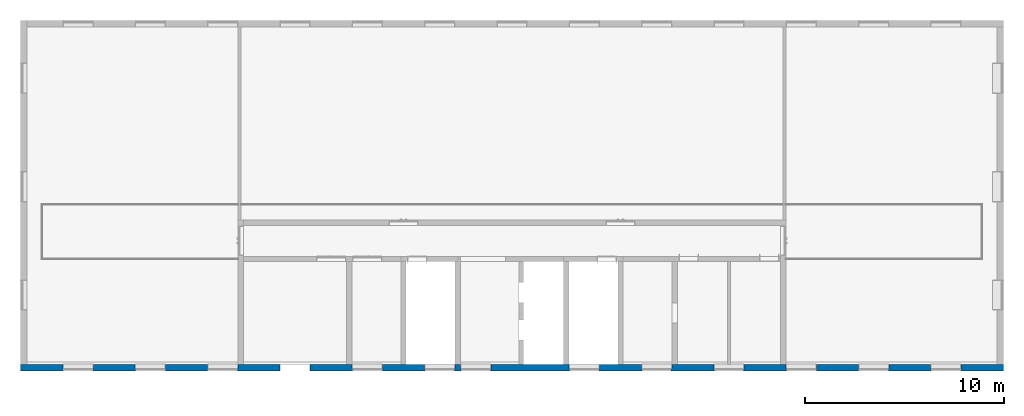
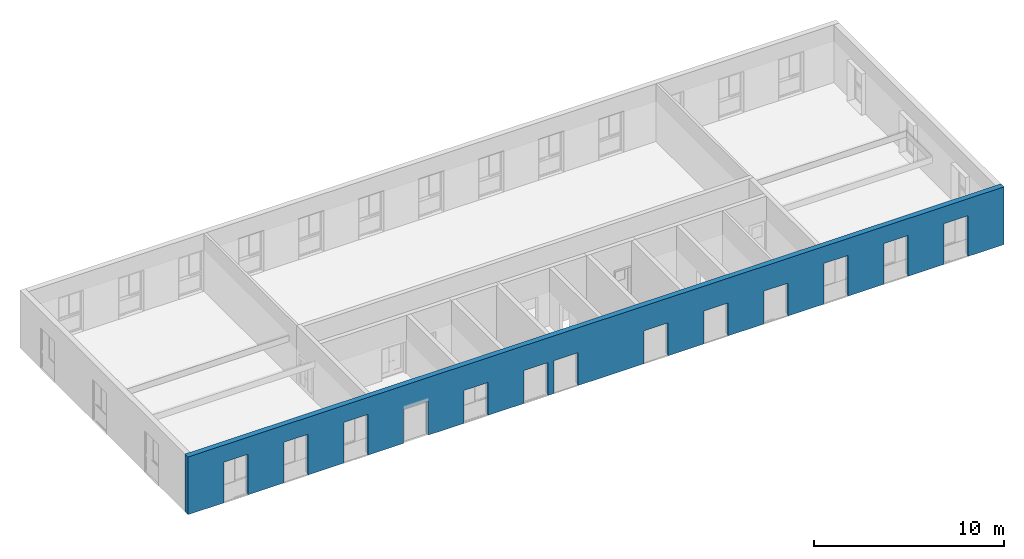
# One storey, part 6 of 15: 1 wall, 13 openings.
"""IFC4X3 building model written with IfcOpenShell, lengths in millimetres."""

from ifc_helpers import new_model, entity, si_unit, converted_unit, derived_unit, direction, frame, frame_2d, origin, place, context, subcontext, project, spatial, rectangle, extrude, faceted_brep, material, layer, layer_set, type_object, element, save


model = new_model("IFC4X3")

# Units and contexts
model_context = context("Model", 3, precision=0.01, world=origin(), true_north=direction((6.12303176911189e-17, 1.0)))
body_context = subcontext(model_context, "Body", "Model", "MODEL_VIEW")
ifc_project = project(units=[si_unit("LENGTHUNIT", "METRE", prefix="MILLI"), si_unit("AREAUNIT", "SQUARE_METRE"), si_unit("VOLUMEUNIT", "CUBIC_METRE"), converted_unit("PLANEANGLEUNIT", "DEGREE", entity("IfcPlaneAngleMeasure", 0.0174532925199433), si_unit("PLANEANGLEUNIT", "RADIAN"), dimensions=[0, 0, 0, 0, 0, 0, 0]), si_unit("MASSUNIT", "GRAM", prefix="KILO"), derived_unit("MASSDENSITYUNIT", [(si_unit("MASSUNIT", "GRAM", prefix="KILO"), 1), (si_unit("LENGTHUNIT", "METRE"), -3)]), derived_unit("IONCONCENTRATIONUNIT", [(si_unit("MASSUNIT", "GRAM", prefix="KILO"), 1), (si_unit("LENGTHUNIT", "METRE"), -3)]), derived_unit("MOMENTOFINERTIAUNIT", [(si_unit("LENGTHUNIT", "METRE"), 4)]), si_unit("TIMEUNIT", "SECOND"), si_unit("FREQUENCYUNIT", "HERTZ"), si_unit("THERMODYNAMICTEMPERATUREUNIT", "DEGREE_CELSIUS"), derived_unit("THERMALTRANSMITTANCEUNIT", [(si_unit("MASSUNIT", "GRAM", prefix="KILO"), 1), (si_unit("THERMODYNAMICTEMPERATUREUNIT", "KELVIN"), -1), (si_unit("TIMEUNIT", "SECOND"), -3)]), derived_unit("THERMALCONDUCTANCEUNIT", [(si_unit("MASSUNIT", "GRAM", prefix="KILO"), 1), (si_unit("THERMODYNAMICTEMPERATUREUNIT", "KELVIN"), -1), (si_unit("TIMEUNIT", "SECOND"), -3), (si_unit("LENGTHUNIT", "METRE"), 1)]), derived_unit("VOLUMETRICFLOWRATEUNIT", [(si_unit("LENGTHUNIT", "METRE", prefix="DECI"), 3), (si_unit("TIMEUNIT", "SECOND"), -1)]), derived_unit("MASSFLOWRATEUNIT", [(si_unit("MASSUNIT", "GRAM", prefix="KILO"), 1), (si_unit("TIMEUNIT", "SECOND"), -1)]), derived_unit("ROTATIONALFREQUENCYUNIT", [(si_unit("TIMEUNIT", "SECOND"), -1)]), si_unit("ELECTRICCURRENTUNIT", "AMPERE"), si_unit("ELECTRICVOLTAGEUNIT", "VOLT"), si_unit("POWERUNIT", "WATT"), si_unit("FORCEUNIT", "NEWTON", prefix="KILO"), si_unit("ILLUMINANCEUNIT", "LUX"), si_unit("LUMINOUSFLUXUNIT", "LUMEN"), si_unit("LUMINOUSINTENSITYUNIT", "CANDELA"), si_unit("ENERGYUNIT", "JOULE"), derived_unit("USERDEFINED", [(si_unit("MASSUNIT", "GRAM", prefix="KILO"), -1), (si_unit("LENGTHUNIT", "METRE"), -2), (si_unit("TIMEUNIT", "SECOND"), 3), (si_unit("LUMINOUSFLUXUNIT", "LUMEN"), 1)]), derived_unit("USERDEFINED", [(si_unit("MASSUNIT", "GRAM", prefix="KILO"), 1), (si_unit("TIMEUNIT", "SECOND"), -3), (si_unit("LENGTHUNIT", "METRE"), 3), (si_unit("ELECTRICCURRENTUNIT", "AMPERE"), -2)]), derived_unit("SOUNDPOWERUNIT", [(si_unit("MASSUNIT", "GRAM", prefix="KILO"), 1), (si_unit("TIMEUNIT", "SECOND"), -3), (si_unit("LENGTHUNIT", "METRE"), 2)]), derived_unit("SOUNDPRESSUREUNIT", [(si_unit("MASSUNIT", "GRAM", prefix="KILO"), 1), (si_unit("LENGTHUNIT", "METRE"), -1), (si_unit("TIMEUNIT", "SECOND"), -2)]), derived_unit("LINEARVELOCITYUNIT", [(si_unit("LENGTHUNIT", "METRE"), 1), (si_unit("TIMEUNIT", "SECOND"), -1)]), si_unit("PRESSUREUNIT", "PASCAL"), derived_unit("USERDEFINED", [(si_unit("MASSUNIT", "GRAM", prefix="KILO"), 1), (si_unit("LENGTHUNIT", "METRE"), -2), (si_unit("TIMEUNIT", "SECOND"), -2)]), derived_unit("LINEARFORCEUNIT", [(si_unit("MASSUNIT", "GRAM", prefix="KILO"), 1), (si_unit("TIMEUNIT", "SECOND"), -2)]), derived_unit("PLANARFORCEUNIT", [(si_unit("MASSUNIT", "GRAM", prefix="KILO"), 1), (si_unit("LENGTHUNIT", "METRE"), -1), (si_unit("TIMEUNIT", "SECOND"), -2)]), derived_unit("SPECIFICHEATCAPACITYUNIT", [(si_unit("THERMODYNAMICTEMPERATUREUNIT", "KELVIN"), -1), (si_unit("LENGTHUNIT", "METRE"), 2), (si_unit("TIMEUNIT", "SECOND"), -2)]), derived_unit("HEATFLUXDENSITYUNIT", [(si_unit("MASSUNIT", "GRAM", prefix="KILO"), 1), (si_unit("TIMEUNIT", "SECOND"), -3)]), derived_unit("HEATINGVALUEUNIT", [(si_unit("LENGTHUNIT", "METRE"), 2), (si_unit("TIMEUNIT", "SECOND"), -2)]), derived_unit("VAPORPERMEABILITYUNIT", [(si_unit("LENGTHUNIT", "METRE"), -1), (si_unit("TIMEUNIT", "SECOND"), 1)]), derived_unit("DYNAMICVISCOSITYUNIT", [(si_unit("MASSUNIT", "GRAM", prefix="KILO"), 1), (si_unit("TIMEUNIT", "SECOND"), -1), (si_unit("LENGTHUNIT", "METRE"), -1)]), derived_unit("THERMALEXPANSIONCOEFFICIENTUNIT", [(si_unit("THERMODYNAMICTEMPERATUREUNIT", "KELVIN"), -1)]), derived_unit("MODULUSOFELASTICITYUNIT", [(si_unit("MASSUNIT", "GRAM", prefix="KILO"), 1), (si_unit("LENGTHUNIT", "METRE"), -1), (si_unit("TIMEUNIT", "SECOND"), -2)]), derived_unit("ISOTHERMALMOISTURECAPACITYUNIT", [(si_unit("MASSUNIT", "GRAM", prefix="KILO"), -1), (si_unit("LENGTHUNIT", "METRE"), 3)]), derived_unit("MOISTUREDIFFUSIVITYUNIT", [(si_unit("TIMEUNIT", "SECOND"), -1), (si_unit("LENGTHUNIT", "METRE"), 2)]), derived_unit("AREADENSITYUNIT", [(si_unit("MASSUNIT", "GRAM", prefix="KILO"), 1), (si_unit("LENGTHUNIT", "METRE"), 2)]), derived_unit("MASSPERLENGTHUNIT", [(si_unit("MASSUNIT", "GRAM", prefix="KILO"), 1), (si_unit("LENGTHUNIT", "METRE"), -1)]), derived_unit("THERMALRESISTANCEUNIT", [(si_unit("MASSUNIT", "GRAM", prefix="KILO"), -1), (si_unit("TIMEUNIT", "SECOND"), 3), (si_unit("THERMODYNAMICTEMPERATUREUNIT", "KELVIN"), 1)]), derived_unit("ACCELERATIONUNIT", [(si_unit("LENGTHUNIT", "METRE"), 1), (si_unit("TIMEUNIT", "SECOND"), -2)]), derived_unit("ANGULARVELOCITYUNIT", [(si_unit("TIMEUNIT", "SECOND"), -1), (si_unit("PLANEANGLEUNIT", "RADIAN"), 1)]), derived_unit("LINEARSTIFFNESSUNIT", [(si_unit("MASSUNIT", "GRAM", prefix="KILO"), 1), (si_unit("TIMEUNIT", "SECOND"), -2)]), derived_unit("WARPINGCONSTANTUNIT", [(si_unit("LENGTHUNIT", "METRE"), 6)]), derived_unit("LINEARMOMENTUNIT", [(si_unit("MASSUNIT", "GRAM", prefix="KILO"), 1), (si_unit("LENGTHUNIT", "METRE"), 1), (si_unit("TIMEUNIT", "SECOND"), -2)]), derived_unit("TORQUEUNIT", [(si_unit("MASSUNIT", "GRAM", prefix="KILO"), 1), (si_unit("LENGTHUNIT", "METRE"), 2), (si_unit("TIMEUNIT", "SECOND"), -2)])], contexts=[model_context])

# Site, building, storey
site_placement = place(None, origin())
site = spatial("IfcSite", under=ifc_project, at=site_placement, Name="Default", CompositionType="ELEMENT")
building_placement = place(site_placement, origin())
building = spatial("IfcBuilding", under=site, at=building_placement, Name="事務所ビル", CompositionType="ELEMENT")
storey_placement = place(building_placement, frame((0.0, 0.0, 4300.0)))
storey = spatial("IfcBuildingStorey", under=building, at=storey_placement, Name="2FL", CompositionType="ELEMENT", Elevation=4300.0)

# Wall, openings
ifc_material_1 = material(Name="<Unnamed>")
ifc_layer_1 = layer(ifc_material_1, 46.0, Name="Layer")
ifc_material_2 = material(Name="合板", Category="一般")
ifc_layer_2 = layer(ifc_material_2, 12.0, Name="合板", Category="一般")
ifc_material_3 = material(Name="天然木材", Category="一般")
ifc_layer_3 = layer(ifc_material_3, 240.0, Name="天然木材", Category="一般")
ifc_layer_4 = layer(ifc_material_2, 12.0, Name="合板", Category="一般")
ifc_material_4 = material(Name="せっこうボード", Category="一般")
ifc_layer_5 = layer(ifc_material_4, 15.0, Name="せっこうボード", Category="一般")
ifc_layer_set = layer_set([ifc_layer_1, ifc_layer_2, ifc_layer_3, ifc_layer_4, ifc_layer_5], Name="標準壁:外装材46_構造用合板12_木240_構造用合板12_GB-R15")
wall_type = type_object("IfcWallType", Name="標準壁:外装材46_構造用合板12_木240_構", PredefinedType="STANDARD", material=ifc_layer_set)
wall_placement = place(storey_placement, frame((-178.0, -15.5000000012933, 0.0)))
wall = element("IfcWall", 1, at=wall_placement, inside=storey, type_object=wall_type, material=ifc_layer_set, Name="標準壁:外装材46_構造用合板12_木240_構造用合板12_GB-R15", ObjectType="標準壁:外装材46_構造用合板12_木240_構造用合板12_GB-R15", PredefinedType="NOTDEFINED", context=body_context, shape_type="SweptSolid", body=[
    extrude(rectangle(XDim=49496.0, YDim=325.0, at=frame_2d((24748.0, 0.0), x_axis=(1.0, 0.0))), origin(), (0.0, 0.0, 1.0), 3700.0),
])
opening_1_placement = place(wall_placement, frame((13063.0, -162.500000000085, 0.0)))
element("IfcOpeningElement", 2, at=opening_1_placement, cuts=wall, Name="シャッター - 上下開閉式:シャッター - 上下開閉式 H2200:1", PredefinedType="OPENING", context=body_context, shape_type="SweptSolid", body=[
    extrude(rectangle(XDim=2200.00000000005, YDim=1530.0, at=frame_2d((1100.00000000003, 765.000000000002), x_axis=(-1.0, 0.0))), frame((0.0, 0.0, 0.0), z_axis=(0.0, 1.0, 0.0), x_axis=(0.0, 0.0, 1.0)), (0.0, 0.0, 1.0), 325.0),
])
opening_2_placement = place(wall_placement, frame((178.0, 15.5000000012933, 0.0)))
element("IfcOpeningElement", 3, at=opening_2_placement, cuts=wall, Name="標準壁:外装材46_構造用合板12_木240_構造用合板12_GB-R15", PredefinedType="OPENING", context=body_context, shape_type="Brep", body=[
    faceted_brep([(45655.0, -48.0, -105.0), (45655.0, -48.0, -35.0), (47165.0, -48.0, -35.0), (47165.0, -48.0, -105.0), (45675.0, -118.0, 2610.0), (45675.0, -118.0, -10.0), (45675.0, -178.0, -10.0), (45675.0, -178.0, 2610.0), (47145.0, -118.0, -10.0), (47145.0, -118.0, 2610.0), (47145.0, -178.0, 2610.0), (47145.0, -178.0, -10.0), (45645.0, 157.0, -35.0), (45645.0, -48.0, -35.0), (45645.0, -48.0, 2635.0), (45645.0, 157.0, 2635.0), (47175.0, 157.0, -35.0), (47175.0, 157.0, 2635.0), (47175.0, -48.0, 2635.0), (47175.0, -48.0, -35.0), (45655.0, -48.0, 2630.0), (47165.0, -48.0, 2630.0), (45655.0, -118.0, -115.769230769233), (45655.0, -118.0, 2630.0), (47165.0, -118.0, 2630.0), (47165.0, -118.0, -115.769230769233)], [[[0, 1, 2, 3]], [[4, 5, 6, 7]], [[8, 9, 10, 11]], [[5, 8, 11, 6]], [[7, 10, 9, 4]], [[12, 13, 14, 15]], [[16, 17, 18, 19]], [[12, 16, 19, 2, 1, 13]], [[13, 1, 20, 21, 2, 19, 18, 14]], [[14, 18, 17, 15]], [[15, 17, 16, 12]], [[20, 1, 0, 22, 23]], [[3, 2, 21, 24, 25]], [[0, 3, 25, 22]], [[22, 25, 24, 23], [4, 9, 8, 5]], [[23, 24, 21, 20]], [[6, 11, 10, 7]]]),
])
opening_3_placement = place(wall_placement, frame((178.0, 15.5000000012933, 0.0)))
element("IfcOpeningElement", 4, at=opening_3_placement, cuts=wall, Name="標準壁:外装材46_構造用合板12_木240_構造用合板12_GB-R15", PredefinedType="OPENING", context=body_context, shape_type="Brep", body=[
    faceted_brep([(42015.0, -48.0, -105.0), (42015.0, -48.0, -35.0), (43525.0, -48.0, -35.0), (43525.0, -48.0, -105.0), (42035.0, -118.0, 2610.0), (42035.0, -118.0, -10.0), (42035.0, -178.0, -10.0), (42035.0, -178.0, 2610.0), (43505.0, -118.0, -10.0), (43505.0, -118.0, 2610.0), (43505.0, -178.0, 2610.0), (43505.0, -178.0, -10.0), (42005.0, 157.0, -35.0), (42005.0, -48.0, -35.0), (42005.0, -48.0, 2635.0), (42005.0, 157.0, 2635.0), (43535.0, 157.0, -35.0), (43535.0, 157.0, 2635.0), (43535.0, -48.0, 2635.0), (43535.0, -48.0, -35.0), (42015.0, -48.0, 2630.0), (43525.0, -48.0, 2630.0), (42015.0, -118.0, -115.769230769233), (42015.0, -118.0, 2630.0), (43525.0, -118.0, 2630.0), (43525.0, -118.0, -115.769230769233)], [[[0, 1, 2, 3]], [[4, 5, 6, 7]], [[8, 9, 10, 11]], [[5, 8, 11, 6]], [[7, 10, 9, 4]], [[12, 13, 14, 15]], [[16, 17, 18, 19]], [[12, 16, 19, 2, 1, 13]], [[13, 1, 20, 21, 2, 19, 18, 14]], [[14, 18, 17, 15]], [[15, 17, 16, 12]], [[20, 1, 0, 22, 23]], [[3, 2, 21, 24, 25]], [[0, 3, 25, 22]], [[22, 25, 24, 23], [4, 9, 8, 5]], [[23, 24, 21, 20]], [[6, 11, 10, 7]]]),
])
opening_4_placement = place(wall_placement, frame((178.0, 15.5000000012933, 0.0)))
element("IfcOpeningElement", 5, at=opening_4_placement, cuts=wall, Name="標準壁:外装材46_構造用合板12_木240_構造用合板12_GB-R15", PredefinedType="OPENING", context=body_context, shape_type="Brep", body=[
    faceted_brep([(38375.0, -48.0, -105.0), (38375.0, -48.0, -35.0), (39885.0, -48.0, -35.0), (39885.0, -48.0, -105.0), (38395.0, -118.0, 2610.0), (38395.0, -118.0, -10.0), (38395.0, -178.0, -10.0), (38395.0, -178.0, 2610.0), (39865.0, -118.0, -10.0), (39865.0, -118.0, 2610.0), (39865.0, -178.0, 2610.0), (39865.0, -178.0, -10.0), (38365.0, 157.0, -35.0), (38365.0, -48.0, -35.0), (38365.0, -48.0, 2635.0), (38365.0, 157.0, 2635.0), (39895.0, 157.0, -35.0), (39895.0, 157.0, 2635.0), (39895.0, -48.0, 2635.0), (39895.0, -48.0, -35.0), (38375.0, -48.0, 2630.0), (39885.0, -48.0, 2630.0), (38375.0, -118.0, -115.769230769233), (38375.0, -118.0, 2630.0), (39885.0, -118.0, 2630.0), (39885.0, -118.0, -115.769230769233)], [[[0, 1, 2, 3]], [[4, 5, 6, 7]], [[8, 9, 10, 11]], [[5, 8, 11, 6]], [[7, 10, 9, 4]], [[12, 13, 14, 15]], [[16, 17, 18, 19]], [[12, 16, 19, 2, 1, 13]], [[13, 1, 20, 21, 2, 19, 18, 14]], [[14, 18, 17, 15]], [[15, 17, 16, 12]], [[20, 1, 0, 22, 23]], [[3, 2, 21, 24, 25]], [[0, 3, 25, 22]], [[22, 25, 24, 23], [4, 9, 8, 5]], [[23, 24, 21, 20]], [[6, 11, 10, 7]]]),
])
opening_5_placement = place(wall_placement, frame((178.0, 15.5000000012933, 0.0)))
element("IfcOpeningElement", 6, at=opening_5_placement, cuts=wall, Name="標準壁:外装材46_構造用合板12_木240_構造用合板12_GB-R15", PredefinedType="OPENING", context=body_context, shape_type="Brep", body=[
    faceted_brep([(9255.0, -48.0, -105.0), (9255.0, -48.0, -35.0), (10765.0, -48.0, -35.0), (10765.0, -48.0, -105.0), (9275.0, -118.0, 2610.0), (9275.0, -118.0, -10.0), (9275.0, -178.0, -10.0), (9275.0, -178.0, 2610.0), (10745.0, -118.0, -10.0), (10745.0, -118.0, 2610.0), (10745.0, -178.0, 2610.0), (10745.0, -178.0, -10.0), (9245.0, 157.0, -35.0), (9245.0, -48.0, -35.0), (9245.0, -48.0, 2635.0), (9245.0, 157.0, 2635.0), (10775.0, 157.0, -35.0), (10775.0, 157.0, 2635.0), (10775.0, -48.0, 2635.0), (10775.0, -48.0, -35.0), (9255.0, -48.0, 2630.0), (10765.0, -48.0, 2630.0), (9255.0, -118.0, -115.769230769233), (9255.0, -118.0, 2630.0), (10765.0, -118.0, 2630.0), (10765.0, -118.0, -115.769230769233)], [[[0, 1, 2, 3]], [[4, 5, 6, 7]], [[8, 9, 10, 11]], [[5, 8, 11, 6]], [[7, 10, 9, 4]], [[12, 13, 14, 15]], [[16, 17, 18, 19]], [[12, 16, 19, 2, 1, 13]], [[13, 1, 20, 21, 2, 19, 18, 14]], [[14, 18, 17, 15]], [[15, 17, 16, 12]], [[20, 1, 0, 22, 23]], [[3, 2, 21, 24, 25]], [[0, 3, 25, 22]], [[22, 25, 24, 23], [4, 9, 8, 5]], [[23, 24, 21, 20]], [[6, 11, 10, 7]]]),
])
opening_6_placement = place(wall_placement, frame((178.0, 15.5000000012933, 0.0)))
element("IfcOpeningElement", 7, at=opening_6_placement, cuts=wall, Name="標準壁:外装材46_構造用合板12_木240_構造用合板12_GB-R15", PredefinedType="OPENING", context=body_context, shape_type="Brep", body=[
    faceted_brep([(5615.0, -48.0, -105.0), (5615.0, -48.0, -35.0), (7125.0, -48.0, -35.0), (7125.0, -48.0, -105.0), (5635.0, -118.0, 2610.0), (5635.0, -118.0, -10.0), (5635.0, -178.0, -10.0), (5635.0, -178.0, 2610.0), (7105.0, -118.0, -10.0), (7105.0, -118.0, 2610.0), (7105.0, -178.0, 2610.0), (7105.0, -178.0, -10.0), (5605.0, 157.0, -35.0), (5605.0, -48.0, -35.0), (5605.0, -48.0, 2635.0), (5605.0, 157.0, 2635.0), (7135.0, 157.0, -35.0), (7135.0, 157.0, 2635.0), (7135.0, -48.0, 2635.0), (7135.0, -48.0, -35.0), (5615.0, -48.0, 2630.0), (7125.0, -48.0, 2630.0), (5615.0, -118.0, -115.769230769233), (5615.0, -118.0, 2630.0), (7125.0, -118.0, 2630.0), (7125.0, -118.0, -115.769230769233)], [[[0, 1, 2, 3]], [[4, 5, 6, 7]], [[8, 9, 10, 11]], [[5, 8, 11, 6]], [[7, 10, 9, 4]], [[12, 13, 14, 15]], [[16, 17, 18, 19]], [[12, 16, 19, 2, 1, 13]], [[13, 1, 20, 21, 2, 19, 18, 14]], [[14, 18, 17, 15]], [[15, 17, 16, 12]], [[20, 1, 0, 22, 23]], [[3, 2, 21, 24, 25]], [[0, 3, 25, 22]], [[22, 25, 24, 23], [4, 9, 8, 5]], [[23, 24, 21, 20]], [[6, 11, 10, 7]]]),
])
opening_7_placement = place(wall_placement, frame((178.0, 15.5000000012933, 0.0)))
element("IfcOpeningElement", 8, at=opening_7_placement, cuts=wall, Name="標準壁:外装材46_構造用合板12_木240_構造用合板12_GB-R15", PredefinedType="OPENING", context=body_context, shape_type="Brep", body=[
    faceted_brep([(1975.0, -48.0, -105.0), (1975.0, -48.0, -35.0), (3485.0, -48.0, -35.0), (3485.0, -48.0, -105.0), (1995.0, -118.0, 2610.0), (1995.0, -118.0, -10.0), (1995.0, -178.0, -10.0), (1995.0, -178.0, 2610.0), (3465.0, -118.0, -10.0), (3465.0, -118.0, 2610.0), (3465.0, -178.0, 2610.0), (3465.0, -178.0, -10.0), (1965.0, 157.0, -35.0), (1965.0, -48.0, -35.0), (1965.0, -48.0, 2635.0), (1965.0, 157.0, 2635.0), (3495.0, 157.0, -35.0), (3495.0, 157.0, 2635.0), (3495.0, -48.0, 2635.0), (3495.0, -48.0, -35.0), (1975.0, -48.0, 2630.0), (3485.0, -48.0, 2630.0), (1975.0, -118.0, -115.769230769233), (1975.0, -118.0, 2630.0), (3485.0, -118.0, 2630.0), (3485.0, -118.0, -115.769230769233)], [[[0, 1, 2, 3]], [[4, 5, 6, 7]], [[8, 9, 10, 11]], [[5, 8, 11, 6]], [[7, 10, 9, 4]], [[12, 13, 14, 15]], [[16, 17, 18, 19]], [[12, 16, 19, 2, 1, 13]], [[13, 1, 20, 21, 2, 19, 18, 14]], [[14, 18, 17, 15]], [[15, 17, 16, 12]], [[20, 1, 0, 22, 23]], [[3, 2, 21, 24, 25]], [[0, 3, 25, 22]], [[22, 25, 24, 23], [4, 9, 8, 5]], [[23, 24, 21, 20]], [[6, 11, 10, 7]]]),
])
opening_8_placement = place(wall_placement, frame((178.0, 15.5000000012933, 0.0)))
element("IfcOpeningElement", 9, at=opening_8_placement, cuts=wall, Name="標準壁:外装材46_構造用合板12_木240_構造用合板12_GB-R15", PredefinedType="OPENING", context=body_context, shape_type="Brep", body=[
    faceted_brep([(23515.0, -48.0, -35.0), (23515.0, -48.0, 2135.0), (21985.0, -48.0, 2135.0), (21985.0, -48.0, -35.0), (21995.0, -48.0, -35.0), (21995.0, -48.0, 2130.0), (23505.0, -48.0, 2130.0), (23505.0, -48.0, -35.0), (23505.0, -118.0, -115.769230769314), (23505.0, -118.0, 2130.0), (21995.0, -118.0, 2130.0), (21995.0, -118.0, -115.769230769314), (22015.0, -118.0, -115.769230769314), (22015.0, -118.0, 2110.0), (23485.0, -118.0, 2110.0), (23485.0, -118.0, -115.769230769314), (23515.0, 157.0, -35.0), (23515.0, 157.0, 2135.0), (21985.0, 157.0, -35.0), (21985.0, 157.0, 2135.0), (23505.0, -48.0, -105.0), (21995.0, -48.0, -105.0), (23485.0, -178.0, -125.0), (22015.0, -178.0, -125.0), (23485.0, -178.0, 2110.0), (22015.0, -178.0, 2110.0)], [[[0, 1, 2, 3, 4, 5, 6, 7]], [[8, 9, 10, 11, 12, 13, 14, 15]], [[16, 17, 1, 0]], [[18, 3, 2, 19]], [[16, 0, 7, 4, 3, 18]], [[1, 17, 19, 2]], [[17, 16, 18, 19]], [[6, 9, 8, 20, 7]], [[21, 11, 10, 5, 4]], [[20, 8, 15, 22, 23, 12, 11, 21]], [[9, 6, 5, 10]], [[20, 21, 4, 7]], [[14, 24, 22, 15]], [[12, 23, 25, 13]], [[22, 24, 25, 23]], [[24, 14, 13, 25]]]),
])
opening_9_placement = place(wall_placement, frame((178.0, 15.5000000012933, 0.0)))
element("IfcOpeningElement", 10, at=opening_9_placement, cuts=wall, Name="標準壁:外装材46_構造用合板12_木240_構造用合板12_GB-R15", PredefinedType="OPENING", context=body_context, shape_type="Brep", body=[
    faceted_brep([(31085.0, -48.0, -35.0), (31095.0, -48.0, -35.0), (31095.0, -48.0, 2130.0), (32605.0, -48.0, 2130.0), (32605.0, -48.0, -35.0), (32615.0, -48.0, -35.0), (32615.0, -48.0, 2135.0), (31085.0, -48.0, 2135.0), (31095.0, -118.0, -115.769230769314), (31115.0, -118.0, -115.769230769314), (31115.0, -118.0, 2110.0), (32585.0, -118.0, 2110.0), (32585.0, -118.0, -115.769230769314), (32605.0, -118.0, -115.769230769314), (32605.0, -118.0, 2130.0), (31095.0, -118.0, 2130.0), (31085.0, 157.0, -35.0), (31085.0, 157.0, 2135.0), (32615.0, 157.0, -35.0), (32615.0, 157.0, 2135.0), (31095.0, -48.0, -105.0), (32605.0, -48.0, -105.0), (32585.0, -178.0, -125.0), (31115.0, -178.0, -125.0), (31115.0, -178.0, 2110.0), (32585.0, -178.0, 2110.0)], [[[0, 1, 2, 3, 4, 5, 6, 7]], [[8, 9, 10, 11, 12, 13, 14, 15]], [[16, 0, 7, 17]], [[18, 19, 6, 5]], [[16, 18, 5, 4, 1, 0]], [[7, 6, 19, 17]], [[17, 19, 18, 16]], [[2, 1, 20, 8, 15]], [[21, 4, 3, 14, 13]], [[20, 21, 13, 12, 22, 23, 9, 8]], [[15, 14, 3, 2]], [[20, 1, 4, 21]], [[10, 9, 23, 24]], [[12, 11, 25, 22]], [[23, 22, 25, 24]], [[24, 25, 11, 10]]]),
])
opening_10_placement = place(wall_placement, frame((178.0, 15.5000000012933, 0.0)))
element("IfcOpeningElement", 11, at=opening_10_placement, cuts=wall, Name="標準壁:外装材46_構造用合板12_木240_構造用合板12_GB-R15", PredefinedType="OPENING", context=body_context, shape_type="Brep", body=[
    faceted_brep([(27445.0, -48.0, -35.0), (27455.0, -48.0, -35.0), (27455.0, -48.0, 2130.0), (28965.0, -48.0, 2130.0), (28965.0, -48.0, -35.0), (28975.0, -48.0, -35.0), (28975.0, -48.0, 2135.0), (27445.0, -48.0, 2135.0), (27455.0, -118.0, -115.769230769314), (27475.0, -118.0, -115.769230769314), (27475.0, -118.0, 2110.0), (28945.0, -118.0, 2110.0), (28945.0, -118.0, -115.769230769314), (28965.0, -118.0, -115.769230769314), (28965.0, -118.0, 2130.0), (27455.0, -118.0, 2130.0), (27445.0, 157.0, -35.0), (27445.0, 157.0, 2135.0), (28975.0, 157.0, -35.0), (28975.0, 157.0, 2135.0), (27455.0, -48.0, -105.0), (28965.0, -48.0, -105.0), (28945.0, -178.0, -125.0), (27475.0, -178.0, -125.0), (27475.0, -178.0, 2110.0), (28945.0, -178.0, 2110.0)], [[[0, 1, 2, 3, 4, 5, 6, 7]], [[8, 9, 10, 11, 12, 13, 14, 15]], [[16, 0, 7, 17]], [[18, 19, 6, 5]], [[16, 18, 5, 4, 1, 0]], [[7, 6, 19, 17]], [[17, 19, 18, 16]], [[2, 1, 20, 8, 15]], [[21, 4, 3, 14, 13]], [[20, 21, 13, 12, 22, 23, 9, 8]], [[15, 14, 3, 2]], [[20, 1, 4, 21]], [[10, 9, 23, 24]], [[12, 11, 25, 22]], [[23, 22, 25, 24]], [[24, 25, 11, 10]]]),
])
opening_11_placement = place(wall_placement, frame((178.0, 15.5000000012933, 0.0)))
element("IfcOpeningElement", 12, at=opening_11_placement, cuts=wall, Name="標準壁:外装材46_構造用合板12_木240_構造用合板12_GB-R15", PredefinedType="OPENING", context=body_context, shape_type="Brep", body=[
    faceted_brep([(20165.0, -48.0, -35.0), (20175.0, -48.0, -35.0), (20175.0, -48.0, 2130.0), (21685.0, -48.0, 2130.0), (21685.0, -48.0, -35.0), (21695.0, -48.0, -35.0), (21695.0, -48.0, 2135.0), (20165.0, -48.0, 2135.0), (20175.0, -118.0, -115.769230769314), (20195.0, -118.0, -115.769230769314), (20195.0, -118.0, 2110.0), (21665.0, -118.0, 2110.0), (21665.0, -118.0, -115.769230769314), (21685.0, -118.0, -115.769230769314), (21685.0, -118.0, 2130.0), (20175.0, -118.0, 2130.0), (20165.0, 157.0, -35.0), (20165.0, 157.0, 2135.0), (21695.0, 157.0, -35.0), (21695.0, 157.0, 2135.0), (20175.0, -48.0, -105.0), (21685.0, -48.0, -105.0), (21665.0, -178.0, -125.0), (20195.0, -178.0, -125.0), (20195.0, -178.0, 2110.0), (21665.0, -178.0, 2110.0)], [[[0, 1, 2, 3, 4, 5, 6, 7]], [[8, 9, 10, 11, 12, 13, 14, 15]], [[16, 0, 7, 17]], [[18, 19, 6, 5]], [[16, 18, 5, 4, 1, 0]], [[7, 6, 19, 17]], [[17, 19, 18, 16]], [[2, 1, 20, 8, 15]], [[21, 4, 3, 14, 13]], [[20, 21, 13, 12, 22, 23, 9, 8]], [[15, 14, 3, 2]], [[20, 1, 4, 21]], [[10, 9, 23, 24]], [[12, 11, 25, 22]], [[23, 22, 25, 24]], [[24, 25, 11, 10]]]),
])
opening_12_placement = place(wall_placement, frame((178.0, 15.5000000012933, 0.0)))
element("IfcOpeningElement", 13, at=opening_12_placement, cuts=wall, Name="標準壁:外装材46_構造用合板12_木240_構造用合板12_GB-R15", PredefinedType="OPENING", context=body_context, shape_type="Brep", body=[
    faceted_brep([(16525.0, 157.0, -35.0), (18055.0, 157.0, -35.0), (18055.0, -48.0, -35.0), (18045.0, -48.0, -35.0), (16535.0, -48.0, -35.0), (16525.0, -48.0, -35.0), (16525.0, -48.0, 2135.0), (18055.0, -48.0, 2135.0), (18055.0, 157.0, 2135.0), (16525.0, 157.0, 2135.0), (18045.0, -48.0, -105.0), (18045.0, -48.0, 2130.0), (18045.0, -118.0, 2130.0), (18045.0, -118.0, -115.769230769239), (16535.0, -48.0, 2130.0), (16535.0, -48.0, -105.0), (16535.0, -118.0, -115.769230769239), (16535.0, -118.0, 2130.0), (16555.0, -118.0, 2110.0), (18025.0, -118.0, 2110.0), (18025.0, -118.0, -10.0), (16555.0, -118.0, -10.0), (16555.0, -178.0, -10.0), (16555.0, -178.0, 2110.0), (18025.0, -178.0, 2110.0), (18025.0, -178.0, -10.0)], [[[0, 1, 2, 3, 4, 5]], [[6, 7, 8, 9]], [[10, 3, 11, 12, 13]], [[0, 5, 6, 9]], [[1, 8, 7, 2]], [[5, 4, 14, 11, 3, 2, 7, 6]], [[9, 8, 1, 0]], [[14, 4, 15, 16, 17]], [[15, 10, 13, 16]], [[16, 13, 12, 17], [18, 19, 20, 21]], [[17, 12, 11, 14]], [[15, 4, 3, 10]], [[18, 21, 22, 23]], [[20, 19, 24, 25]], [[21, 20, 25, 22]], [[22, 25, 24, 23]], [[23, 24, 19, 18]]]),
])
opening_13_placement = place(wall_placement, frame((178.0, 15.5000000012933, 0.0)))
element("IfcOpeningElement", 14, at=opening_13_placement, cuts=wall, Name="標準壁:外装材46_構造用合板12_木240_構造用合板12_GB-R15", PredefinedType="OPENING", context=body_context, shape_type="Brep", body=[
    faceted_brep([(34725.0, 157.0, -35.0), (34725.0, -48.0, -35.0), (34725.0, -48.0, 2135.0), (34725.0, 157.0, 2135.0), (36255.0, 157.0, -35.0), (36255.0, 157.0, 2135.0), (36255.0, -48.0, 2135.0), (36255.0, -48.0, -35.0), (36245.0, -48.0, -35.0), (34735.0, -48.0, -35.0), (34735.0, -48.0, 2130.0), (36245.0, -48.0, 2130.0), (34735.0, -48.0, -105.0), (34735.0, -118.0, -115.769230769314), (34735.0, -118.0, 2130.0), (36245.0, -48.0, -105.0), (36245.0, -118.0, 2130.0), (36245.0, -118.0, -115.769230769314), (36225.0, -118.0, -115.769230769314), (36225.0, -178.0, -125.0), (34755.0, -178.0, -125.0), (34755.0, -118.0, -115.769230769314), (34755.0, -118.0, 2110.0), (36225.0, -118.0, 2110.0), (34755.0, -178.0, 2110.0), (36225.0, -178.0, 2110.0)], [[[0, 1, 2, 3]], [[4, 5, 6, 7]], [[0, 4, 7, 8, 9, 1]], [[1, 9, 10, 11, 8, 7, 6, 2]], [[2, 6, 5, 3]], [[3, 5, 4, 0]], [[10, 9, 12, 13, 14]], [[15, 8, 11, 16, 17]], [[12, 15, 17, 18, 19, 20, 21, 13]], [[13, 21, 22, 23, 18, 17, 16, 14]], [[14, 16, 11, 10]], [[12, 9, 8, 15]], [[22, 21, 20, 24]], [[18, 23, 25, 19]], [[20, 19, 25, 24]], [[24, 25, 23, 22]]]),
])

save(model, "model.ifc")
